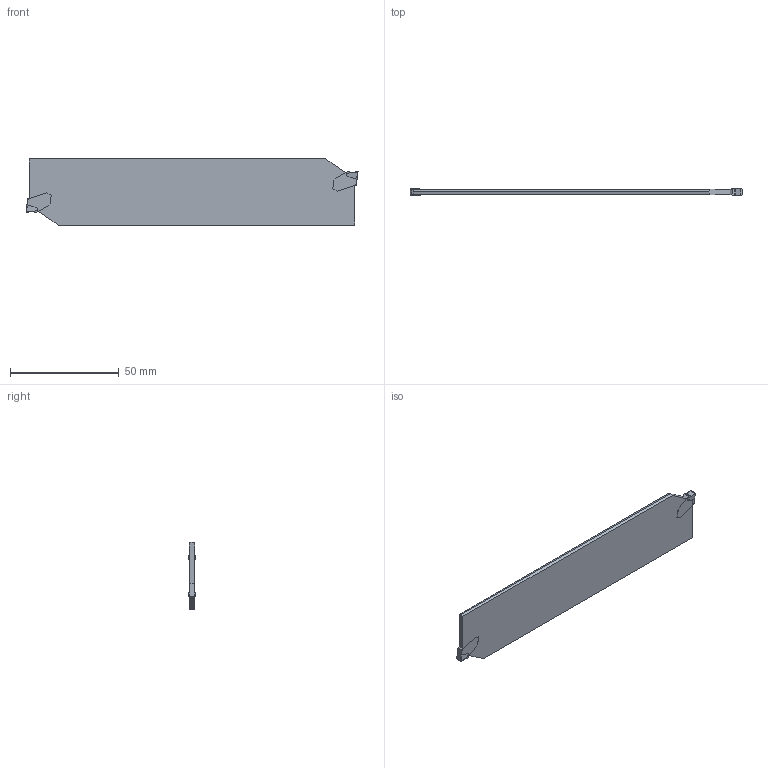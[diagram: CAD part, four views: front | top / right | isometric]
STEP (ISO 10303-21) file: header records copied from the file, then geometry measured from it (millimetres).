
FILE_DESCRIPTION(/* description */ (''),/* implementation_level */ '2;1');
FILE_NAME(/* name */ 'SPBA125-S-3-HAAS.stp',/* time_stamp */ '2020-10-14T14:21:36+09:00',/* author */ (''),/* organization */ (''),/* preprocessor_version */ 'ST-DEVELOPER v16',/* originating_system */ 'SIEMENS PLM Software NX 10.0',/* authorisation */ '');
FILE_SCHEMA (('CONFIG_CONTROL_DESIGN'));
Length unit declared in the file: millimetre
Products named in the file (1): model2
Bounding box: 153 x 3.1 x 31.11 mm (x, y, z)
Volume: 11148 mm3; surface area: 10217.9 mm2
Topology: 3 solids, 3 shells, 58 faces, 156 edges, 104 vertices
Faces by surface type: plane 44, cylinder 14
Entity records: 1892 total; most frequent: CARTESIAN_POINT 319, ORIENTED_EDGE 312, DIRECTION 306, EDGE_CURVE 156, LINE 124, VECTOR 124, VERTEX_POINT 104, AXIS2_PLACEMENT_3D 91
